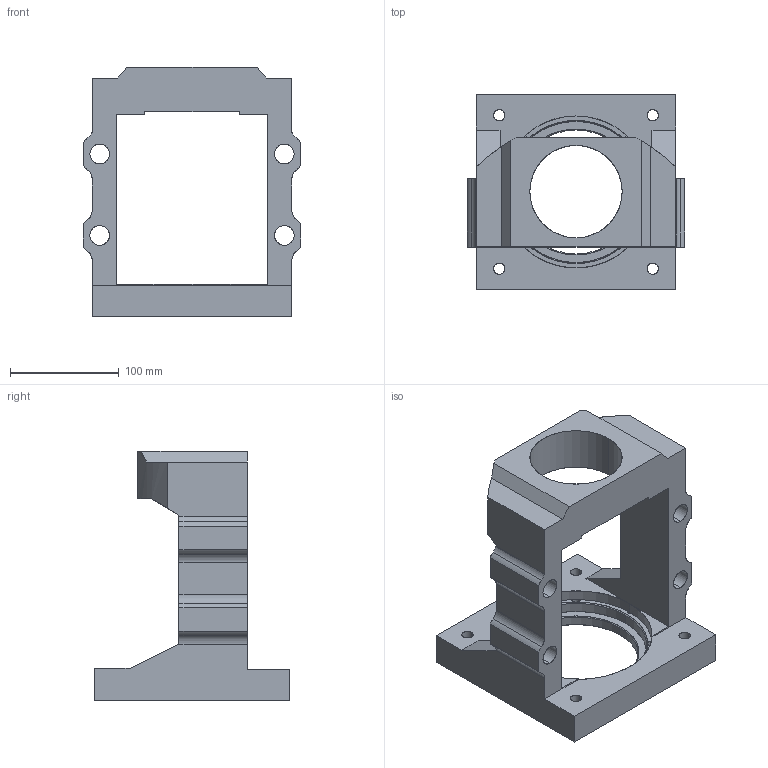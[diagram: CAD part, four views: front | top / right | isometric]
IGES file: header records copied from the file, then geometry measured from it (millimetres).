
Start section: SolidWorks IGES file using analytic representation for surfaces
Global section: file name: C:\Users\117\Desktop\1101001MBB30-H-I-J網路圖處理\2D3D\3D\MBB30-H.IGS; native system: SolidWorks 2018; preprocessor: SolidWorks 2018; author: 117; date: 211001.140016; units: millimetre
Bounding box: 200 x 180 x 230 mm (x, y, z)
Surface area: 220281.5 mm2 (no closed solid volume)
Topology: 0 solids, 0 shells, 245 faces, 3356 edges, 3352 vertices
Faces by surface type: revolution 173, bspline 72
